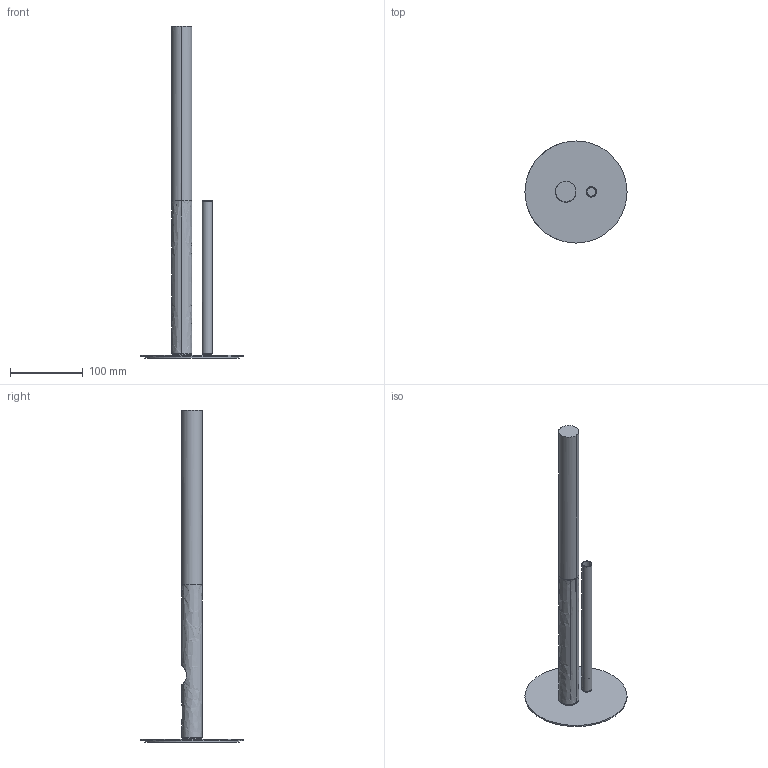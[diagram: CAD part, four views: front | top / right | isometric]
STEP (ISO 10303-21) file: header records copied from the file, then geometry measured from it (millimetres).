
FILE_DESCRIPTION(/* description */ (''),/* implementation_level */ '2;1');
FILE_NAME(/* name */ 'cini&nils-Ognidove_tavolo-3d',/* time_stamp */ '2022-02-04T12:50:07+01:00',/* author */ (''),/* organization */ (''),/* preprocessor_version */ 'ST-DEVELOPER v15',/* originating_system */ '',/* authorisation */ '');
FILE_SCHEMA (('AUTOMOTIVE_DESIGN'));
Length unit declared in the file: millimetre
Products named in the file (1): Document
Bounding box: 140 x 140 x 455.5 mm (x, y, z)
Surface area: 122163.2 mm2 (no closed solid volume)
Topology: 0 solids, 2 shells, 770 faces, 2224 edges, 1508 vertices
Faces by surface type: bspline 584, plane 186
Entity records: 35693 total; most frequent: CARTESIAN_POINT 21835, ORIENTED_EDGE 4460, EDGE_CURVE 2244, B_SPLINE_CURVE_WITH_KNOTS 2120, VERTEX_POINT 1534, EDGE_LOOP 829, ADVANCED_FACE 767, FACE_OUTER_BOUND 767
